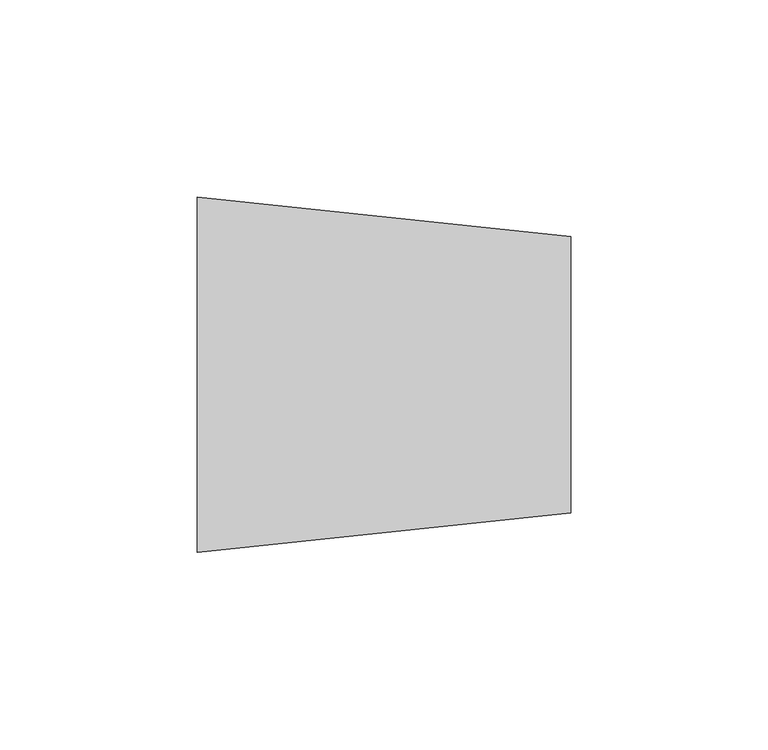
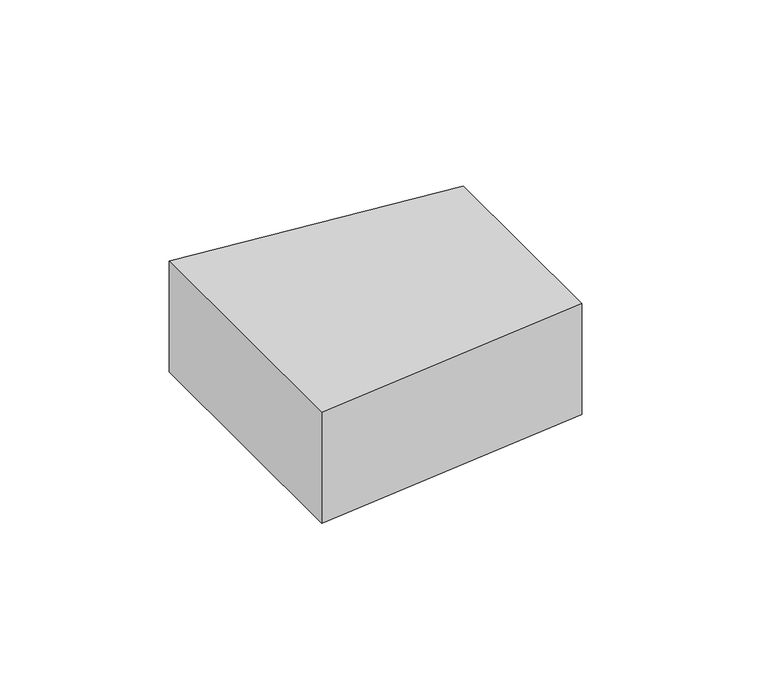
"""IFC4 building model written with IfcOpenShell, lengths in millimetres: duct fitting geometry, КНС_Переходники_DKC : Переходники_DKC."""

from ifc_helpers import new_model, si_unit, origin, place, context, project, spatial, faceted_brep, source, transform, mapped, element, save


def duct_fitting_c945c0e5(model_context):
    return source(origin(), model_context, "Body", "Brep", [
        faceted_brep([(94.5, -35.0, 20.1437767), (94.5, -35.0, -19.8562233), (94.5, 35.0, -19.8562233), (94.5, 35.0, 20.1437767), (0.0, -45.0, 20.0), (0.0, 45.0, 20.0), (0.0, 45.0, -20.0), (0.0, -45.0, -20.0)], [[[0, 1, 2, 3]], [[4, 5, 6, 7]], [[4, 7, 1, 0]], [[7, 6, 2, 1]], [[6, 5, 3, 2]], [[5, 4, 0, 3]]]),
    ])


if __name__ == "__main__":
    model = new_model("IFC4")
    model_context = context("Model", 3, world=origin())
    ifc_project = project(units=[si_unit("LENGTHUNIT", "METRE", prefix="MILLI")], contexts=[model_context])
    site = spatial("IfcSite", under=ifc_project)
    building = spatial("IfcBuilding", under=site)
    placement = place(None, origin())
    duct_fitting_shape = duct_fitting_c945c0e5(model_context)
    element("IfcDuctFitting", 1, ObjectType="КНС_Переходники_DKC : Переходники_DKC", at=placement, inside=building, context=model_context, shape_type="MappedRepresentation", body=[
        mapped(duct_fitting_shape, transform((0.0, 0.0, 0.0), x_axis=(1.0, 0.0, 0.0), y_axis=(0.0, 1.0, 0.0), z_axis=(0.0, 0.0, 1.0))),
    ])
    save(model, "model.ifc")
